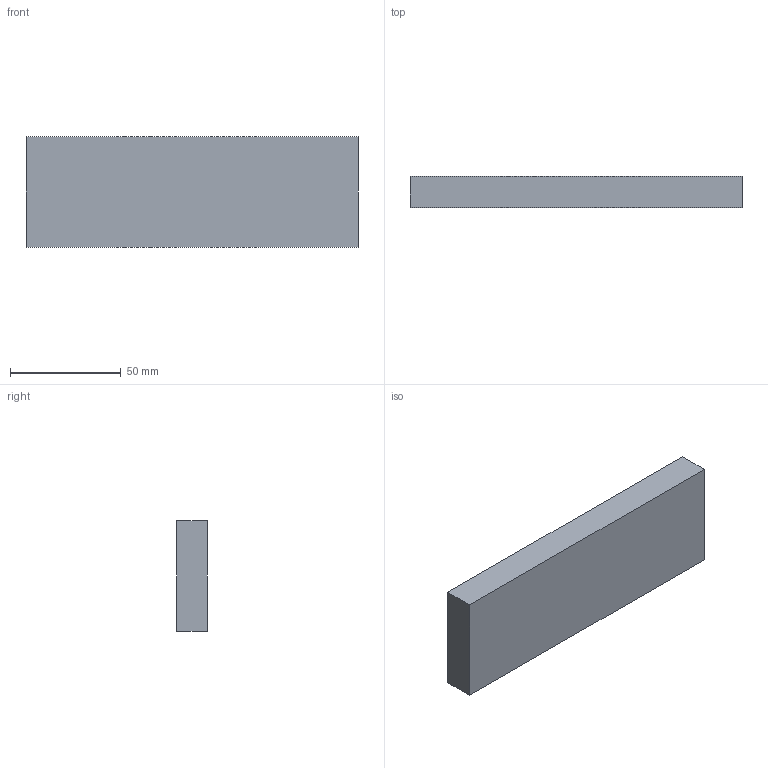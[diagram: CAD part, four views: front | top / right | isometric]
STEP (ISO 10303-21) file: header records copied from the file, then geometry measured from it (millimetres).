
FILE_DESCRIPTION(('FreeCAD Model'),'2;1');
FILE_NAME('Open CASCADE Shape Model','2026-10-20T16:17:42',('FreeCAD'),( 'FreeCAD'),'Open CASCADE STEP processor 7.8','FreeCAD','Unknown');
FILE_SCHEMA(('AUTOMOTIVE_DESIGN { 1 0 10303 214 1 1 1 1 }'));
Length unit declared in the file: millimetre
Products named in the file (1): Open CASCADE STEP translator 7.8 2
Bounding box: 150 x 14 x 50 mm (x, y, z)
Volume: 105000 mm3; surface area: 20600 mm2
Topology: 1 solids, 1 shells, 6 faces, 12 edges, 8 vertices
Faces by surface type: plane 6
Entity records: 166 total; most frequent: CARTESIAN_POINT 27, DIRECTION 26, ORIENTED_EDGE 24, EDGE_CURVE 12, LINE 12, VECTOR 12, VERTEX_POINT 8, AXIS2_PLACEMENT_3D 7
